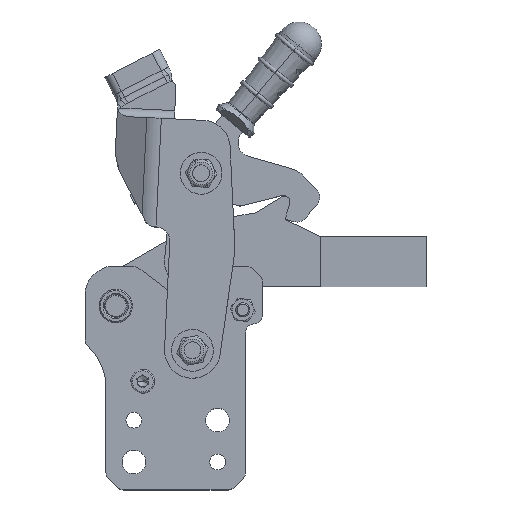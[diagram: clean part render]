
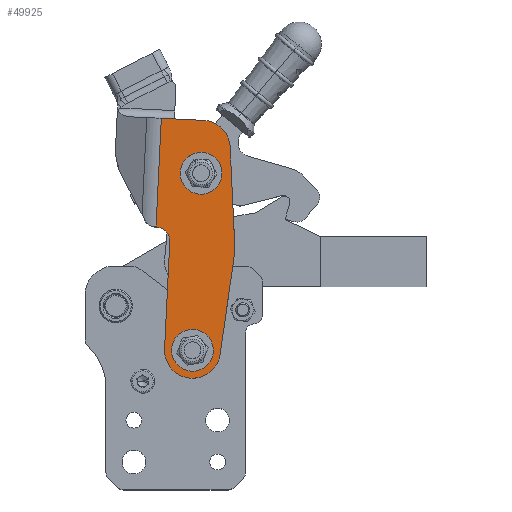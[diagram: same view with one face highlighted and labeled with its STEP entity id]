
A CAD part, top view. The second image highlights one B-rep face of the part: STEP entity #49925.
In plain terms, the highlighted planar face has unit normal (0, 0, 1) as drawn and (0, 0, -1) by its records, which use the part's own axes.
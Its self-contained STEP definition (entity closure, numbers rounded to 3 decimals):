
#132 = EDGE_CURVE ( 'NONE', #19190, #1808, #35330, .T. ) ;
#793 = CARTESIAN_POINT ( 'NONE',  ( -7.5, 0., -17. ) ) ;
#1808 = VERTEX_POINT ( 'NONE', #4792 ) ;
#1941 = LINE ( 'NONE', #41614, #31854 ) ;
#2081 = VERTEX_POINT ( 'NONE', #793 ) ;
#3019 = CIRCLE ( 'NONE', #3848, 40. ) ;
#3780 = DIRECTION ( 'NONE',  ( 1., 0., 0. ) ) ;
#3845 = CIRCLE ( 'NONE', #6403, 7.5 ) ;
#3848 = AXIS2_PLACEMENT_3D ( 'NONE', #46012, #42306, #41525 ) ;
#3908 = EDGE_LOOP ( 'NONE', ( #22759, #28498 ) ) ;
#4792 = CARTESIAN_POINT ( 'NONE',  ( -9.955, -0.949, -17. ) ) ;
#6263 = VERTEX_POINT ( 'NONE', #6356 ) ;
#6265 = EDGE_LOOP ( 'NONE', ( #22191, #23321, #35578, #45425, #28136, #44015, #44528, #33136, #18048, #17578 ) ) ;
#6309 = DIRECTION ( 'NONE',  ( 0., 0., 1. ) ) ;
#6356 = CARTESIAN_POINT ( 'NONE',  ( 10., 0., -17. ) ) ;
#6403 = AXIS2_PLACEMENT_3D ( 'NONE', #17153, #14470, #26413 ) ;
#6655 = CIRCLE ( 'NONE', #36197, 7.5 ) ;
#7108 = CARTESIAN_POINT ( 'NONE',  ( 0., 0., -17. ) ) ;
#7749 = VERTEX_POINT ( 'NONE', #10928 ) ;
#8057 = CARTESIAN_POINT ( 'NONE',  ( -7.5, 63.5, -17. ) ) ;
#9119 = DIRECTION ( 'NONE',  ( 0., -1., 0. ) ) ;
#9206 = DIRECTION ( 'NONE',  ( 0., 0., 1. ) ) ;
#9670 = VECTOR ( 'NONE', #9119, 1000. ) ;
#9684 = VERTEX_POINT ( 'NONE', #10628 ) ;
#10121 = EDGE_CURVE ( 'NONE', #1808, #6263, #27093, .T. ) ;
#10150 = VERTEX_POINT ( 'NONE', #47831 ) ;
#10628 = CARTESIAN_POINT ( 'NONE',  ( 7.5, 0., -17. ) ) ;
#10928 = CARTESIAN_POINT ( 'NONE',  ( -9.955, 73.449, -17. ) ) ;
#11052 = FACE_BOUND ( 'NONE', #18360, .T. ) ;
#11379 = CARTESIAN_POINT ( 'NONE',  ( 15.179, 82.5, -17. ) ) ;
#11726 = DIRECTION ( 'NONE',  ( 0., 0., 1. ) ) ;
#14468 = CARTESIAN_POINT ( 'NONE',  ( 18., 43.5, -17. ) ) ;
#14470 = DIRECTION ( 'NONE',  ( 0., 0., 1. ) ) ;
#15155 = EDGE_CURVE ( 'NONE', #2081, #9684, #41166, .T. ) ;
#15423 = VECTOR ( 'NONE', #42753, 1000. ) ;
#15440 = CARTESIAN_POINT ( 'NONE',  ( 0., 0., -17. ) ) ;
#15732 = AXIS2_PLACEMENT_3D ( 'NONE', #45045, #15963, #3780 ) ;
#15963 = DIRECTION ( 'NONE',  ( 0., 0., 1. ) ) ;
#16190 = CARTESIAN_POINT ( 'NONE',  ( 15., 43.5, -17. ) ) ;
#16512 = VERTEX_POINT ( 'NONE', #11379 ) ;
#17153 = CARTESIAN_POINT ( 'NONE',  ( 0., 63.5, -17. ) ) ;
#17544 = ORIENTED_EDGE ( 'NONE', *, *, #47685, .T. ) ;
#17578 = ORIENTED_EDGE ( 'NONE', *, *, #49385, .F. ) ;
#18048 = ORIENTED_EDGE ( 'NONE', *, *, #27669, .T. ) ;
#18157 = CARTESIAN_POINT ( 'NONE',  ( -13.138, 32.455, -17. ) ) ;
#18360 = EDGE_LOOP ( 'NONE', ( #17544, #19692 ) ) ;
#18492 = VECTOR ( 'NONE', #44324, 1000. ) ;
#19190 = VERTEX_POINT ( 'NONE', #30213 ) ;
#19692 = ORIENTED_EDGE ( 'NONE', *, *, #48017, .T. ) ;
#20201 = DIRECTION ( 'NONE',  ( 1., 0., 0. ) ) ;
#20533 = LINE ( 'NONE', #44606, #18492 ) ;
#20699 = CIRCLE ( 'NONE', #50289, 7.5 ) ;
#21609 = CARTESIAN_POINT ( 'NONE',  ( 0., 63.5, -17. ) ) ;
#22191 = ORIENTED_EDGE ( 'NONE', *, *, #10121, .F. ) ;
#22375 = DIRECTION ( 'NONE',  ( 0.095, -0.995, 0. ) ) ;
#22759 = ORIENTED_EDGE ( 'NONE', *, *, #15155, .T. ) ;
#23149 = VERTEX_POINT ( 'NONE', #33874 ) ;
#23321 = ORIENTED_EDGE ( 'NONE', *, *, #132, .F. ) ;
#23441 = DIRECTION ( 'NONE',  ( 1., 0., 0. ) ) ;
#23902 = CARTESIAN_POINT ( 'NONE',  ( 15.179, 43.5, -17. ) ) ;
#24209 = CIRCLE ( 'NONE', #15732, 5. ) ;
#24287 = VECTOR ( 'NONE', #23441, 1000. ) ;
#26413 = DIRECTION ( 'NONE',  ( 1., 0., 0. ) ) ;
#27093 = CIRCLE ( 'NONE', #51467, 10. ) ;
#27200 = FACE_OUTER_BOUND ( 'NONE', #6265, .T. ) ;
#27669 = EDGE_CURVE ( 'NONE', #49627, #35719, #24209, .T. ) ;
#27758 = CARTESIAN_POINT ( 'NONE',  ( 0., 0., -17. ) ) ;
#28083 = CARTESIAN_POINT ( 'NONE',  ( 7.5, 63.5, -17. ) ) ;
#28087 = CARTESIAN_POINT ( 'NONE',  ( 0., 72.5, -17. ) ) ;
#28136 = ORIENTED_EDGE ( 'NONE', *, *, #29997, .F. ) ;
#28498 = ORIENTED_EDGE ( 'NONE', *, *, #31270, .T. ) ;
#28798 = DIRECTION ( 'NONE',  ( 1., 0., 0. ) ) ;
#28974 = CARTESIAN_POINT ( 'NONE',  ( 15.179, 0., -17. ) ) ;
#29997 = EDGE_CURVE ( 'NONE', #10150, #7749, #36076, .T. ) ;
#30089 = DIRECTION ( 'NONE',  ( 1., 0., 0. ) ) ;
#30207 = EDGE_CURVE ( 'NONE', #10150, #16512, #43271, .T. ) ;
#30213 = CARTESIAN_POINT ( 'NONE',  ( -13.138, 32.455, -17. ) ) ;
#30565 = VERTEX_POINT ( 'NONE', #8057 ) ;
#31270 = EDGE_CURVE ( 'NONE', #9684, #2081, #6655, .T. ) ;
#31424 = PLANE ( 'NONE',  #51333 ) ;
#31828 = EDGE_CURVE ( 'NONE', #7749, #23149, #20533, .T. ) ;
#31854 = VECTOR ( 'NONE', #46368, 1000. ) ;
#33136 = ORIENTED_EDGE ( 'NONE', *, *, #43287, .T. ) ;
#33874 = CARTESIAN_POINT ( 'NONE',  ( -13.138, 40.045, -17. ) ) ;
#35330 = LINE ( 'NONE', #18157, #37677 ) ;
#35578 = ORIENTED_EDGE ( 'NONE', *, *, #39707, .F. ) ;
#35719 = VERTEX_POINT ( 'NONE', #51986 ) ;
#36076 = CIRCLE ( 'NONE', #52136, 10. ) ;
#36197 = AXIS2_PLACEMENT_3D ( 'NONE', #15440, #11726, #20201 ) ;
#36251 = DIRECTION ( 'NONE',  ( 1., 0., 0. ) ) ;
#37677 = VECTOR ( 'NONE', #22375, 1000. ) ;
#39707 = EDGE_CURVE ( 'NONE', #23149, #19190, #3019, .T. ) ;
#40078 = CARTESIAN_POINT ( 'NONE',  ( 0., 82.5, -17. ) ) ;
#41166 = CIRCLE ( 'NONE', #47937, 7.5 ) ;
#41525 = DIRECTION ( 'NONE',  ( 1., 0., 0. ) ) ;
#41614 = CARTESIAN_POINT ( 'NONE',  ( 10., 0., -17. ) ) ;
#42306 = DIRECTION ( 'NONE',  ( 0., 0., 1. ) ) ;
#42697 = VERTEX_POINT ( 'NONE', #23902 ) ;
#42753 = DIRECTION ( 'NONE',  ( -1., 0., 0. ) ) ;
#43047 = DIRECTION ( 'NONE',  ( 1., 0., 0. ) ) ;
#43271 = LINE ( 'NONE', #40078, #24287 ) ;
#43287 = EDGE_CURVE ( 'NONE', #42697, #49627, #50725, .T. ) ;
#43587 = DIRECTION ( 'NONE',  ( 0., 0., 1. ) ) ;
#43928 = DIRECTION ( 'NONE',  ( 0., 0., 1. ) ) ;
#44015 = ORIENTED_EDGE ( 'NONE', *, *, #30207, .T. ) ;
#44324 = DIRECTION ( 'NONE',  ( -0.095, -0.995, 0. ) ) ;
#44528 = ORIENTED_EDGE ( 'NONE', *, *, #44770, .T. ) ;
#44606 = CARTESIAN_POINT ( 'NONE',  ( -9.955, 73.449, -17. ) ) ;
#44770 = EDGE_CURVE ( 'NONE', #16512, #42697, #45326, .T. ) ;
#45045 = CARTESIAN_POINT ( 'NONE',  ( 15., 38.5, -17. ) ) ;
#45326 = LINE ( 'NONE', #28974, #9670 ) ;
#45425 = ORIENTED_EDGE ( 'NONE', *, *, #31828, .F. ) ;
#46012 = CARTESIAN_POINT ( 'NONE',  ( 26.681, 36.25, -17. ) ) ;
#46368 = DIRECTION ( 'NONE',  ( 0., 1., 0. ) ) ;
#47532 = DIRECTION ( 'NONE',  ( 0., 0., 1. ) ) ;
#47685 = EDGE_CURVE ( 'NONE', #30565, #51389, #20699, .T. ) ;
#47831 = CARTESIAN_POINT ( 'NONE',  ( 0., 82.5, -17. ) ) ;
#47937 = AXIS2_PLACEMENT_3D ( 'NONE', #50498, #6309, #43047 ) ;
#48017 = EDGE_CURVE ( 'NONE', #51389, #30565, #3845, .T. ) ;
#49385 = EDGE_CURVE ( 'NONE', #6263, #35719, #1941, .T. ) ;
#49627 = VERTEX_POINT ( 'NONE', #16190 ) ;
#49925 = ADVANCED_FACE ( 'NONE', ( #11052, #27200, #51510 ), #31424, .F. ) ;
#50289 = AXIS2_PLACEMENT_3D ( 'NONE', #21609, #9206, #30089 ) ;
#50498 = CARTESIAN_POINT ( 'NONE',  ( 0., 0., -17. ) ) ;
#50725 = LINE ( 'NONE', #14468, #15423 ) ;
#50785 = DIRECTION ( 'NONE',  ( 1., 0., 0. ) ) ;
#51333 = AXIS2_PLACEMENT_3D ( 'NONE', #7108, #47532, #28798 ) ;
#51389 = VERTEX_POINT ( 'NONE', #28083 ) ;
#51467 = AXIS2_PLACEMENT_3D ( 'NONE', #27758, #43587, #50785 ) ;
#51510 = FACE_BOUND ( 'NONE', #3908, .T. ) ;
#51986 = CARTESIAN_POINT ( 'NONE',  ( 10., 38.5, -17. ) ) ;
#52136 = AXIS2_PLACEMENT_3D ( 'NONE', #28087, #43928, #36251 ) ;
